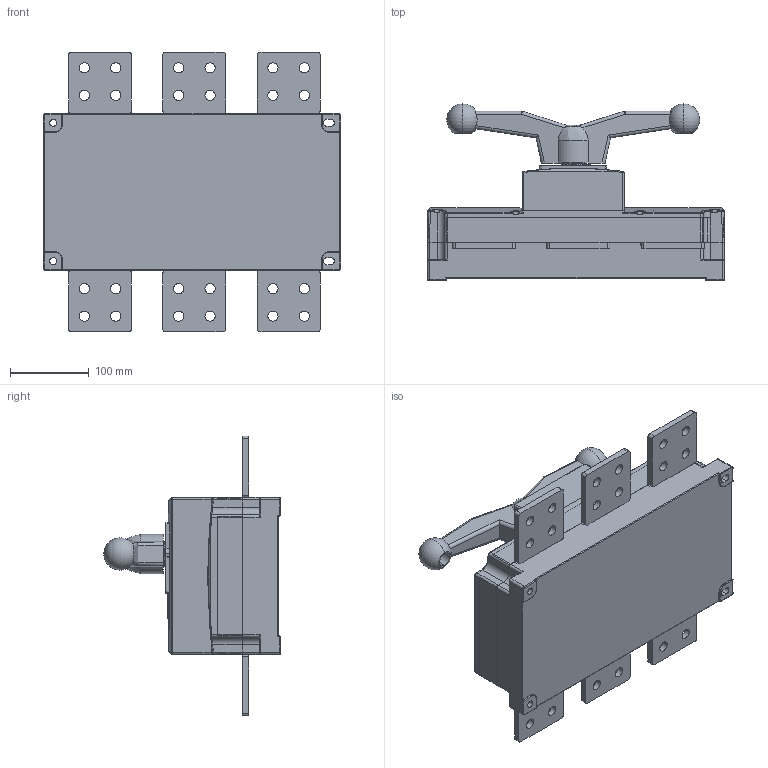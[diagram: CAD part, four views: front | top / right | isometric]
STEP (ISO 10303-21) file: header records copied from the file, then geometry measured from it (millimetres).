
FILE_DESCRIPTION((''),'2;1');
FILE_NAME('ASM0003_ASM','2024-03-18T',('zhuanghy'),(''),'CREO PARAMETRIC BY PTC INC, 2018070','CREO PARAMETRIC BY PTC INC, 2018070','');
FILE_SCHEMA(('AUTOMOTIVE_DESIGN { 1 0 10303 214 1 1 1 1 }'));
Length unit declared in the file: millimetre
Products named in the file (54): ASM0020_ASM_ASM_1_1_2_3_4; ASM0019_ASM_ASM_1_1_2_3_4_ASM; ASM0018_ASM_ASM_1_1_2_3_4_ASM; ASM0017_ASM_ASM_1_1_2_3_4_ASM; ASM0016_ASM_ASM_1_1_2_3_4_ASM; ASM0015_ASM_ASM_1_1_2_3_4_ASM; NH40-1000_ASM_ASM_1_1_2_3_4_ASM; NH40-1000_1600_202107_1_1_2_3_4; NH40-1000-3_ASM_1_ASM_ASM_ASM_3_ASM; NH40-1250-3_ASM_ASM_ASM_1_ASM_2_ASM; NH40-1250-3_ASM_ASM_1_ASM_1_1_ASM; NH40-1250-3_2020_10__ASM_1_AS_1_ASM; NH40-1250-3_3P_202104_ASM_1_1_ASM; NH40-1000-3_3P_202010_ASM_1_1_4_ASM; PRT0018_1; PRT0019_1_1; PRT0019_1_2; PRT0019_1_3; PRT0019_1_4; PRT0019_1_5; PRT0019_1_6; PRT0019_1_7; PRT0019_1_8; PRT0019_1_9; PRT0019_1_10; PRT0019_1_11; PRT0019_1_12; PRT0019_1_13; PRT0019_1_14; PRT0019_1_15; PRT0019_1_16; PRT0019_1_17; PRT0019_1_18; PRT0019_1_19; PRT0019_1_20; PRT0019_1_21; PRT0019_1_22; PRT0019_1_23; PRT0019_1_24; PRT0019_1_25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
Assembly tree (58 placements, depth 10):
  ASM0003_ASM
    NH40-1000-3_3P_202010_ASM_1_1_4_ASM
      NH40-1000_ASM_ASM_1_1_2_3_4_ASM
        ASM0015_ASM_ASM_1_1_2_3_4_ASM
          ASM0016_ASM_ASM_1_1_2_3_4_ASM
            ASM0017_ASM_ASM_1_1_2_3_4_ASM
              ASM0018_ASM_ASM_1_1_2_3_4_ASM
                ASM0019_ASM_ASM_1_1_2_3_4_ASM
                  ASM0020_ASM_ASM_1_1_2_3_4
      NH40-1000_1600_202107_1_1_2_3_4
      NH40-1250-3_3P_202104_ASM_1_1_ASM
        NH40-1250-3_2020_10__ASM_1_AS_1_ASM
          NH40-1250-3_ASM_ASM_1_ASM_1_1_ASM
            NH40-1250-3_ASM_ASM_ASM_1_ASM_2_ASM
              NH40-1000-3_ASM_1_ASM_ASM_ASM_3_ASM
    NH40-1600-3_3P_202010_ASM
      NH40-1600-32020_ASM_1_ASM
        ASM0009_ASM_1_ASM
          ASM0010_ASM_1_1_ASM
            ASM0011_ASM_1_ASM
              ASM0012_ASM_1_ASM
                ASM0013_ASM_1_ASM
                  PRT0018_1
                  PRT0019_1_ASM
                  PRT0020_1
                  PRT0021_1  x6
                  PRT0022_1
Bounding box: 378 x 224.5 x 356 mm (x, y, z)
Volume: 7686715.9 mm3; surface area: 902053.5 mm2
Topology: 37 solids, 41 shells, 1462 faces, 3904 edges, 2504 vertices
Faces by surface type: plane 639, cylinder 540, torus 116, bspline 96, sphere 51, cone 20
Entity records: 54098 total; most frequent: CARTESIAN_POINT 19354, ORIENTED_EDGE 6916, DIRECTION 6783, EDGE_CURVE 3465, AXIS2_PLACEMENT_3D 2512, VERTEX_POINT 2244, VECTOR 1759, LINE 1759
